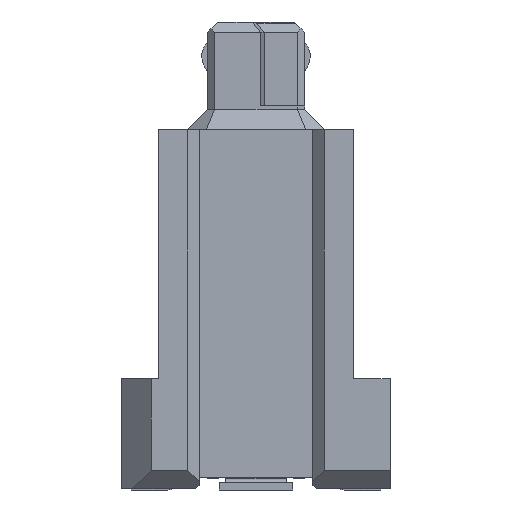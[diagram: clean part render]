
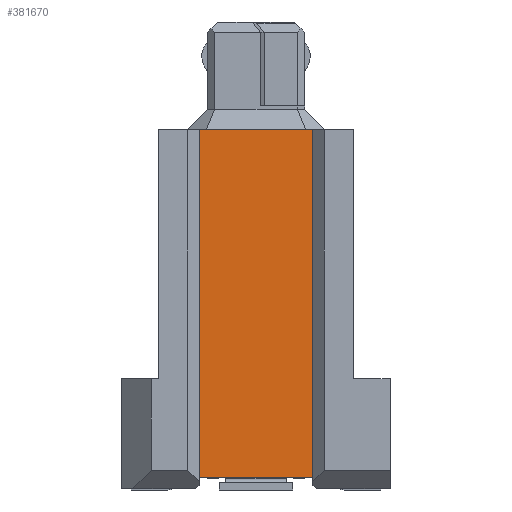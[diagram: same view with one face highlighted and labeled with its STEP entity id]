
A CAD part, left-side view. The second image highlights one B-rep face of the part: STEP entity #381670.
In plain terms, the highlighted planar face has unit normal (-1, 0, 0).
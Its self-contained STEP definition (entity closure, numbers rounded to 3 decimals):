
#246860=CARTESIAN_POINT('',(-0.032,4.41,4.2));
#246870=VERTEX_POINT('',#246860);
#246900=CARTESIAN_POINT('',(-0.032,4.41,0.));
#246910=DIRECTION('',(0.,0.,-1.));
#246920=VECTOR('',#246910,1.);
#246930=LINE('',#246900,#246920);
#246940=CARTESIAN_POINT('',(-0.032,4.41,1.1));
#246950=VERTEX_POINT('',#246940);
#246960=EDGE_CURVE('',#246870,#246950,#246930,.T.);
#248550=CARTESIAN_POINT('',(-0.032,-5.06,4.2));
#248560=VERTEX_POINT('',#248550);
#248590=CARTESIAN_POINT('',(-0.032,2.,4.2));
#248600=DIRECTION('',(0.,-1.,0.));
#248610=VECTOR('',#248600,1.);
#248620=LINE('',#248590,#248610);
#248630=EDGE_CURVE('',#246870,#248560,#248620,.T.);
#248770=CARTESIAN_POINT('',(-0.032,-5.06,1.1));
#248780=VERTEX_POINT('',#248770);
#248830=CARTESIAN_POINT('',(-0.032,-5.06,0.));
#248840=DIRECTION('',(0.,0.,-1.));
#248850=VECTOR('',#248840,1.);
#248860=LINE('',#248830,#248850);
#248870=EDGE_CURVE('',#248560,#248780,#248860,.T.);
#381470=CARTESIAN_POINT('',(-0.032,-0.36,1.1))
;
#381480=DIRECTION('',(0.,1.,0.));
#381490=VECTOR('',#381480,1.);
#381500=LINE('',#381470,#381490);
#381510=EDGE_CURVE('',#248780,#246950,#381500,.T.);
#381560=CARTESIAN_POINT('',(-0.032,-2.36,5.3));
#381570=DIRECTION('',(-1.,0.,0.));
#381580=DIRECTION('',(0.,1.,0.));
#381590=AXIS2_PLACEMENT_3D('',#381560,#381570,#381580);
#381600=PLANE('',#381590);
#381610=ORIENTED_EDGE('',*,*,#246960,.T.);
#381620=ORIENTED_EDGE('',*,*,#248630,.F.);
#381630=ORIENTED_EDGE('',*,*,#248870,.F.);
#381640=ORIENTED_EDGE('',*,*,#381510,.F.);
#381650=EDGE_LOOP('',(#381640,#381630,#381620,#381610));
#381660=FACE_OUTER_BOUND('',#381650,.T.);
#381670=ADVANCED_FACE('',(#381660),#381600,.T.);
